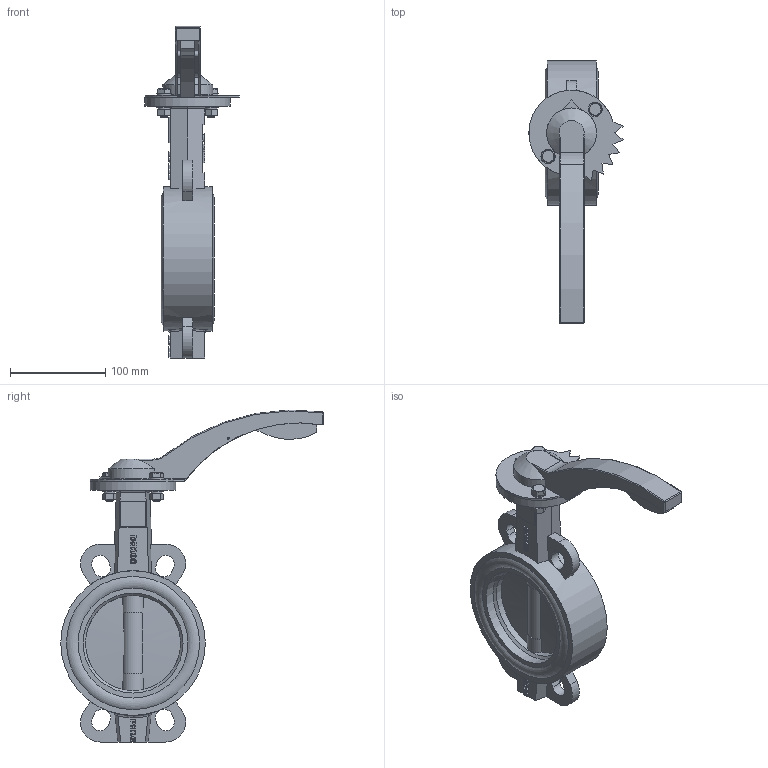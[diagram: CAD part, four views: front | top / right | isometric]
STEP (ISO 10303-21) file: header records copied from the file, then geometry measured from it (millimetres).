
FILE_DESCRIPTION(('STEP AP242'), '1');
FILE_NAME('Ïîâîðîòíûé çàòâîð ïîä ýëåêòðîïðèâîä', '', ('UNSPECIFIED'), ('UNSPECIFIED'), 'C3D Converter', 'C3D Toolkit', '');
FILE_SCHEMA(('AP242_MANAGED_MODEL_BASED_3D_ENGINEERING_MIM_LF { 1 0 10303 442 1 1 4 }'));
Length unit declared in the file: millimetre
Products named in the file (14): П
Assembly tree (20 placements, depth 3):
  (unnamed)
    (unnamed)
    П  x2
    (unnamed)
    (unnamed)
    (unnamed)
    (unnamed)
      (unnamed)
      (unnamed)
      (unnamed)
    (unnamed)  x2
    (unnamed)  x4
    (unnamed)  x2
    (unnamed)  x2
Bounding box: 99.15 x 276 x 349.05 mm (x, y, z)
Volume: 977406.3 mm3; surface area: 279711.9 mm2
Topology: 19 solids, 19 shells, 572 faces, 1447 edges, 941 vertices
Faces by surface type: plane 293, extrusion 139, cylinder 100, cone 18, torus 10, bspline 6, sphere 6
Full cylindrical faces by diameter (mm): 2 x2, 3 x2, 6 x2, 6.647 x2, 8 x2, 9 x4, 9.137 x1, 10 x6, 14 x6, 15 x4, 19.799 x5, 22.627 x1, 24.51 x4, 90 x1, 100 x1, 105.16 x2, 115.48 x2, 127.72 x4, 139.96 x4, 152 x1
Entity records: 22479 total; most frequent: CARTESIAN_POINT 7592, ORIENTED_EDGE 2574, DIRECTION 2076, EDGE_CURVE 1287, VERTEX_POINT 881, VECTOR 824, LINE 685, EDGE_LOOP 662
